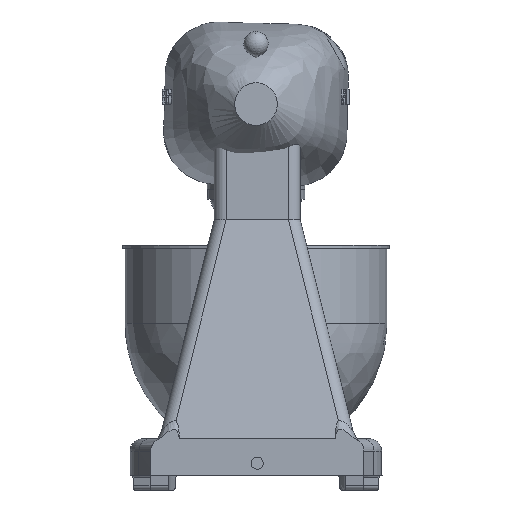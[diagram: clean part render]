
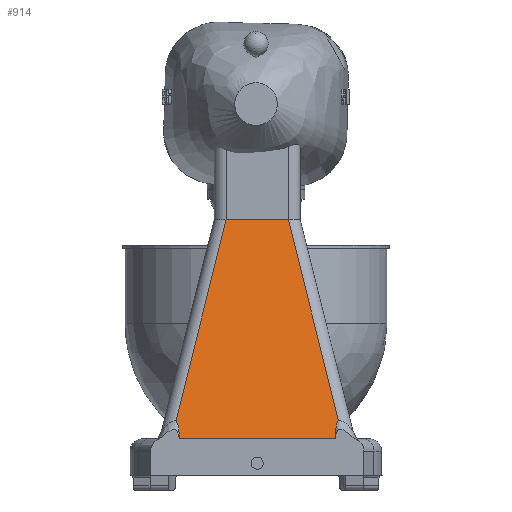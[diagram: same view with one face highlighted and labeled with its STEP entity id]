
A CAD part, left-side view. The second image highlights one B-rep face of the part: STEP entity #914.
In plain terms, the highlighted planar face has unit normal (-0.976, 0, 0.217).
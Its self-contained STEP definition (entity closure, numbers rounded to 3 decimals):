
#86=B_SPLINE_CURVE_WITH_KNOTS('',3,(#5684,#5685,#5686,#5687,#5688,#5689),
 .UNSPECIFIED.,.F.,.F.,(4,2,4),(0.,0.5,1.),.UNSPECIFIED.);
#87=B_SPLINE_CURVE_WITH_KNOTS('',3,(#5697,#5698,#5699,#5700,#5701,#5702),
 .UNSPECIFIED.,.F.,.F.,(4,2,4),(0.,0.5,1.),.UNSPECIFIED.);
#534=PLANE('',#4363);
#681=FACE_OUTER_BOUND('',#1285,.T.);
#914=ADVANCED_FACE('',(#681),#534,.F.);
#1285=EDGE_LOOP('',(#1608,#1609,#1610,#1611,#1612,#1613));
#1608=ORIENTED_EDGE('',*,*,#3183,.F.);
#1609=ORIENTED_EDGE('',*,*,#3184,.T.);
#1610=ORIENTED_EDGE('',*,*,#3185,.T.);
#1611=ORIENTED_EDGE('',*,*,#3186,.T.);
#1612=ORIENTED_EDGE('',*,*,#3187,.T.);
#1613=ORIENTED_EDGE('',*,*,#3188,.T.);
#2786=VERTEX_POINT('',#5682);
#2787=VERTEX_POINT('',#5683);
#2788=VERTEX_POINT('',#5690);
#2789=VERTEX_POINT('',#5692);
#2790=VERTEX_POINT('',#5694);
#2791=VERTEX_POINT('',#5696);
#3183=EDGE_CURVE('',#2786,#2787,#3907,.T.);
#3184=EDGE_CURVE('',#2786,#2788,#86,.T.);
#3185=EDGE_CURVE('',#2788,#2789,#3908,.T.);
#3186=EDGE_CURVE('',#2789,#2790,#3909,.T.);
#3187=EDGE_CURVE('',#2790,#2791,#3910,.T.);
#3188=EDGE_CURVE('',#2791,#2787,#87,.T.);
#3907=LINE('',#5681,#4113);
#3908=LINE('',#5691,#4114);
#3909=LINE('',#5693,#4115);
#3910=LINE('',#5695,#4116);
#4113=VECTOR('',#4758,1.);
#4114=VECTOR('',#4759,1.);
#4115=VECTOR('',#4760,1.);
#4116=VECTOR('',#4761,1.);
#4363=AXIS2_PLACEMENT_3D('',#5703,#4762,#4763);
#4758=DIRECTION('',(0.,1.,0.));
#4759=DIRECTION('',(0.211,0.237,0.948));
#4760=DIRECTION('',(0.,1.,0.));
#4761=DIRECTION('',(-0.211,0.237,-0.948));
#4762=DIRECTION('',(0.976,0.,-0.217));
#4763=DIRECTION('',(0.211,-0.237,0.948));
#5681=CARTESIAN_POINT('',(-64.27,39.705,31.381));
#5682=CARTESIAN_POINT('',(-64.27,-24.402,31.381));
#5683=CARTESIAN_POINT('',(-64.27,103.761,31.381));
#5684=CARTESIAN_POINT('',(-64.27,-24.402,31.381));
#5685=CARTESIAN_POINT('',(-63.692,-24.369,33.98));
#5686=CARTESIAN_POINT('',(-63.115,-24.41,36.579));
#5687=CARTESIAN_POINT('',(-61.967,-25.064,41.745));
#5688=CARTESIAN_POINT('',(-61.403,-25.814,44.283));
#5689=CARTESIAN_POINT('',(-60.887,-27.007,46.603));
#5690=CARTESIAN_POINT('',(-60.887,-27.007,46.603));
#5691=CARTESIAN_POINT('',(-38.623,-1.959,146.792));
#5692=CARTESIAN_POINT('',(-24.27,14.188,211.381));
#5693=CARTESIAN_POINT('',(-24.27,39.705,211.381));
#5694=CARTESIAN_POINT('',(-24.27,65.222,211.381));
#5695=CARTESIAN_POINT('',(-45.118,88.677,117.562));
#5696=CARTESIAN_POINT('',(-60.882,106.411,46.626));
#5697=CARTESIAN_POINT('',(-60.882,106.411,46.626));
#5698=CARTESIAN_POINT('',(-61.397,105.204,44.307));
#5699=CARTESIAN_POINT('',(-61.962,104.439,41.766));
#5700=CARTESIAN_POINT('',(-63.112,103.773,36.59));
#5701=CARTESIAN_POINT('',(-63.691,103.73,33.986));
#5702=CARTESIAN_POINT('',(-64.27,103.761,31.381));
#5703=CARTESIAN_POINT('',(-44.27,104.705,121.381));
